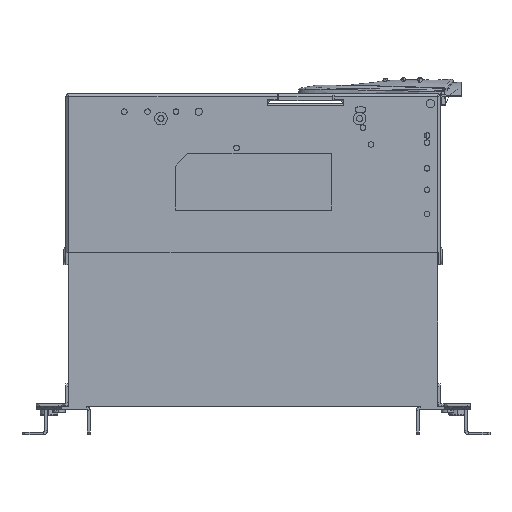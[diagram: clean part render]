
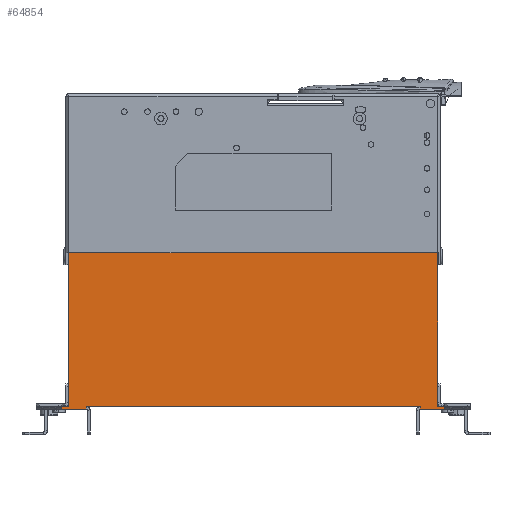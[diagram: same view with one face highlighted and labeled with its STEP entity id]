
A CAD part, left-side view. The second image highlights one B-rep face of the part: STEP entity #64854.
In plain terms, the highlighted planar face has unit normal (-1, 0, 0).
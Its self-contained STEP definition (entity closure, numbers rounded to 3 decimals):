
#14435=DIRECTION('',(0.,-1.,0.));
#14436=VECTOR('',#14435,235.6);
#14437=CARTESIAN_POINT('',(-40.,117.8,-120.));
#14438=LINE('',#14437,#14436);
#14453=DIRECTION('',(0.,0.,-1.));
#14454=VECTOR('',#14453,108.5);
#14455=CARTESIAN_POINT('',(-40.,-130.,-11.5));
#14456=LINE('',#14455,#14454);
#14457=DIRECTION('',(0.,-1.,0.));
#14458=VECTOR('',#14457,5.);
#14459=CARTESIAN_POINT('',(-40.,-130.,-120.));
#14460=LINE('',#14459,#14458);
#14461=DIRECTION('',(0.,1.,0.));
#14462=VECTOR('',#14461,17.2);
#14463=CARTESIAN_POINT('',(-40.,-135.,-122.));
#14464=LINE('',#14463,#14462);
#14465=DIRECTION('',(0.,0.,1.));
#14466=VECTOR('',#14465,2.);
#14467=CARTESIAN_POINT('',(-40.,-117.8,-122.));
#14468=LINE('',#14467,#14466);
#14469=DIRECTION('',(0.,1.,0.));
#14470=VECTOR('',#14469,17.2);
#14471=CARTESIAN_POINT('',(-40.,117.8,-122.));
#14472=LINE('',#14471,#14470);
#14473=DIRECTION('',(0.,0.,1.));
#14474=VECTOR('',#14473,2.);
#14475=CARTESIAN_POINT('',(-40.,135.,-122.));
#14476=LINE('',#14475,#14474);
#14477=DIRECTION('',(0.,-1.,0.));
#14478=VECTOR('',#14477,5.);
#14479=CARTESIAN_POINT('',(-40.,135.,-120.));
#14480=LINE('',#14479,#14478);
#14481=DIRECTION('',(0.,0.,1.));
#14482=VECTOR('',#14481,108.5);
#14483=CARTESIAN_POINT('',(-40.,130.,-120.));
#14484=LINE('',#14483,#14482);
#14485=DIRECTION('',(0.,-1.,0.));
#14486=VECTOR('',#14485,260.);
#14487=CARTESIAN_POINT('',(-40.,130.,-11.5));
#14488=LINE('',#14487,#14486);
#14650=DIRECTION('',(0.,0.,1.));
#14651=VECTOR('',#14650,2.);
#14652=CARTESIAN_POINT('',(-40.,-135.,-122.));
#14653=LINE('',#14652,#14651);
#18129=DIRECTION('',(0.,0.,1.));
#18130=VECTOR('',#18129,2.);
#18131=CARTESIAN_POINT('',(-40.,117.8,-122.));
#18132=LINE('',#18131,#18130);
#37319=CARTESIAN_POINT('',(-40.,117.8,-122.));
#37320=CARTESIAN_POINT('',(-40.,135.,-122.));
#37321=VERTEX_POINT('',#37319);
#37322=VERTEX_POINT('',#37320);
#37447=CARTESIAN_POINT('',(-40.,135.,-120.));
#37448=VERTEX_POINT('',#37447);
#37771=CARTESIAN_POINT('',(-40.,-135.,-122.));
#37772=CARTESIAN_POINT('',(-40.,-117.8,-122.));
#37773=VERTEX_POINT('',#37771);
#37774=VERTEX_POINT('',#37772);
#37879=CARTESIAN_POINT('',(-40.,-135.,-120.));
#37880=VERTEX_POINT('',#37879);
#38361=CARTESIAN_POINT('',(-40.,-130.,-11.5));
#38363=VERTEX_POINT('',#38361);
#38365=CARTESIAN_POINT('',(-40.,130.,-11.5));
#38367=VERTEX_POINT('',#38365);
#39115=CARTESIAN_POINT('',(-40.,130.,-120.));
#39117=VERTEX_POINT('',#39115);
#39120=CARTESIAN_POINT('',(-40.,117.8,-120.));
#39122=VERTEX_POINT('',#39120);
#39211=CARTESIAN_POINT('',(-40.,-130.,-120.));
#39213=VERTEX_POINT('',#39211);
#39215=CARTESIAN_POINT('',(-40.,-117.8,-120.));
#39217=VERTEX_POINT('',#39215);
#64827=CARTESIAN_POINT('',(-40.,0.,-65.75));
#64828=DIRECTION('',(1.,0.,0.));
#64829=DIRECTION('',(0.,0.,1.));
#64830=AXIS2_PLACEMENT_3D('',#64827,#64828,#64829);
#64831=PLANE('',#64830);
#64832=ORIENTED_EDGE('',*,*,#44632,.T.);
#64834=ORIENTED_EDGE('',*,*,#64833,.T.);
#64836=ORIENTED_EDGE('',*,*,#64835,.F.);
#64838=ORIENTED_EDGE('',*,*,#64837,.T.);
#64839=ORIENTED_EDGE('',*,*,#64818,.T.);
#64840=ORIENTED_EDGE('',*,*,#64792,.F.);
#64842=ORIENTED_EDGE('',*,*,#64841,.F.);
#64844=ORIENTED_EDGE('',*,*,#64843,.T.);
#64846=ORIENTED_EDGE('',*,*,#64845,.T.);
#64848=ORIENTED_EDGE('',*,*,#64847,.T.);
#64849=ORIENTED_EDGE('',*,*,#44237,.T.);
#64851=ORIENTED_EDGE('',*,*,#64850,.T.);
#64852=EDGE_LOOP('',(#64832,#64834,#64836,#64838,#64839,#64840,#64842,#64844,
#64846,#64848,#64849,#64851));
#64853=FACE_OUTER_BOUND('',#64852,.F.);
#44237=EDGE_CURVE('',#39117,#38367,#14484,.T.);
#44632=EDGE_CURVE('',#38363,#39213,#14456,.T.);
#64792=EDGE_CURVE('',#39122,#39217,#14438,.T.);
#64818=EDGE_CURVE('',#37774,#39217,#14468,.T.);
#64833=EDGE_CURVE('',#39213,#37880,#14460,.T.);
#64835=EDGE_CURVE('',#37773,#37880,#14653,.T.);
#64837=EDGE_CURVE('',#37773,#37774,#14464,.T.);
#64841=EDGE_CURVE('',#37321,#39122,#18132,.T.);
#64843=EDGE_CURVE('',#37321,#37322,#14472,.T.);
#64845=EDGE_CURVE('',#37322,#37448,#14476,.T.);
#64847=EDGE_CURVE('',#37448,#39117,#14480,.T.);
#64850=EDGE_CURVE('',#38367,#38363,#14488,.T.);
#64854=ADVANCED_FACE('',(#64853),#64831,.F.);
